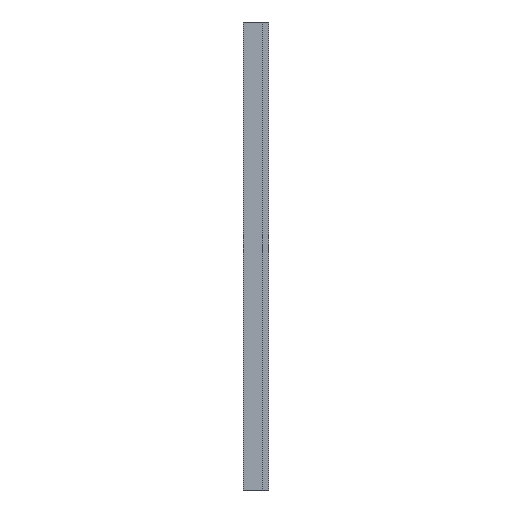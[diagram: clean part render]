
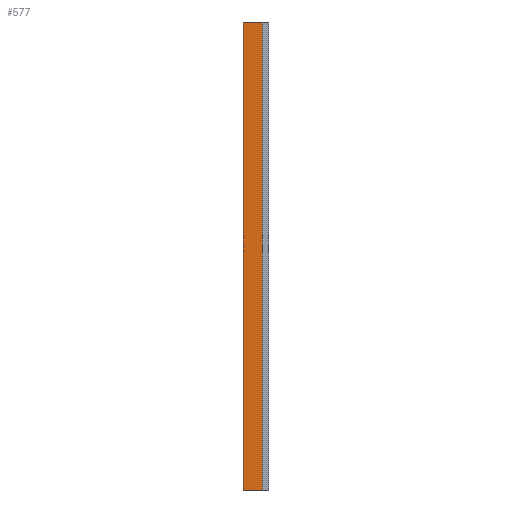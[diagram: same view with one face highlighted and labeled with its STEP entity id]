
A CAD part, left-side view. The second image highlights one B-rep face of the part: STEP entity #577.
In plain terms, the highlighted planar face has unit normal (-1, 0, 0).
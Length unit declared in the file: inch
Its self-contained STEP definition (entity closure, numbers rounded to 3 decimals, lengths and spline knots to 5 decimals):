
#25 = CARTESIAN_POINT ( 'NONE',  ( 0., 0.03937, 0. ) ) ;
#32 = FACE_OUTER_BOUND ( 'NONE', #581, .T. ) ;
#71 = CARTESIAN_POINT ( 'NONE',  ( 0., 0.03937, 0. ) ) ;
#84 = VERTEX_POINT ( 'NONE', #25 ) ;
#99 = EDGE_CURVE ( 'NONE', #462, #552, #729, .T. ) ;
#112 = DIRECTION ( 'NONE',  ( 1., 0., 0. ) ) ;
#154 = DIRECTION ( 'NONE',  ( 0., -1., 0. ) ) ;
#159 = DIRECTION ( 'NONE',  ( 0., 1., 0. ) ) ;
#173 = EDGE_CURVE ( 'NONE', #842, #84, #532, .T. ) ;
#239 = EDGE_CURVE ( 'NONE', #552, #84, #511, .T. ) ;
#251 = ORIENTED_EDGE ( 'NONE', *, *, #173, .T. ) ;
#264 = CARTESIAN_POINT ( 'NONE',  ( 0., 4.91437, 120. ) ) ;
#296 = CARTESIAN_POINT ( 'NONE',  ( 0., 0.03937, 120. ) ) ;
#315 = VECTOR ( 'NONE', #790, 39.37008 ) ;
#332 = VECTOR ( 'NONE', #432, 39.37008 ) ;
#432 = DIRECTION ( 'NONE',  ( 0., -1., 0. ) ) ;
#437 = CARTESIAN_POINT ( 'NONE',  ( 0., 4.91437, 120. ) ) ;
#453 = ORIENTED_EDGE ( 'NONE', *, *, #99, .F. ) ;
#462 = VERTEX_POINT ( 'NONE', #437 ) ;
#488 = VECTOR ( 'NONE', #154, 39.37008 ) ;
#511 = LINE ( 'NONE', #521, #698 ) ;
#521 = CARTESIAN_POINT ( 'NONE',  ( 0., 0.03937, 120. ) ) ;
#532 = LINE ( 'NONE', #71, #332 ) ;
#552 = VERTEX_POINT ( 'NONE', #714 ) ;
#560 = PLANE ( 'NONE',  #715 ) ;
#568 = ORIENTED_EDGE ( 'NONE', *, *, #239, .F. ) ;
#577 = ADVANCED_FACE ( 'NONE', ( #32 ), #560, .F. ) ;
#581 = EDGE_LOOP ( 'NONE', ( #251, #568, #453, #805 ) ) ;
#662 = DIRECTION ( 'NONE',  ( 0., 0., -1. ) ) ;
#670 = EDGE_CURVE ( 'NONE', #462, #842, #683, .T. ) ;
#683 = LINE ( 'NONE', #264, #315 ) ;
#698 = VECTOR ( 'NONE', #662, 39.37008 ) ;
#714 = CARTESIAN_POINT ( 'NONE',  ( 0., 0.03937, 120. ) ) ;
#715 = AXIS2_PLACEMENT_3D ( 'NONE', #296, #112, #159 ) ;
#729 = LINE ( 'NONE', #754, #488 ) ;
#741 = CARTESIAN_POINT ( 'NONE',  ( 0., 4.91437, 0. ) ) ;
#754 = CARTESIAN_POINT ( 'NONE',  ( 0., 0.03937, 120. ) ) ;
#790 = DIRECTION ( 'NONE',  ( 0., 0., -1. ) ) ;
#805 = ORIENTED_EDGE ( 'NONE', *, *, #670, .T. ) ;
#842 = VERTEX_POINT ( 'NONE', #741 ) ;
